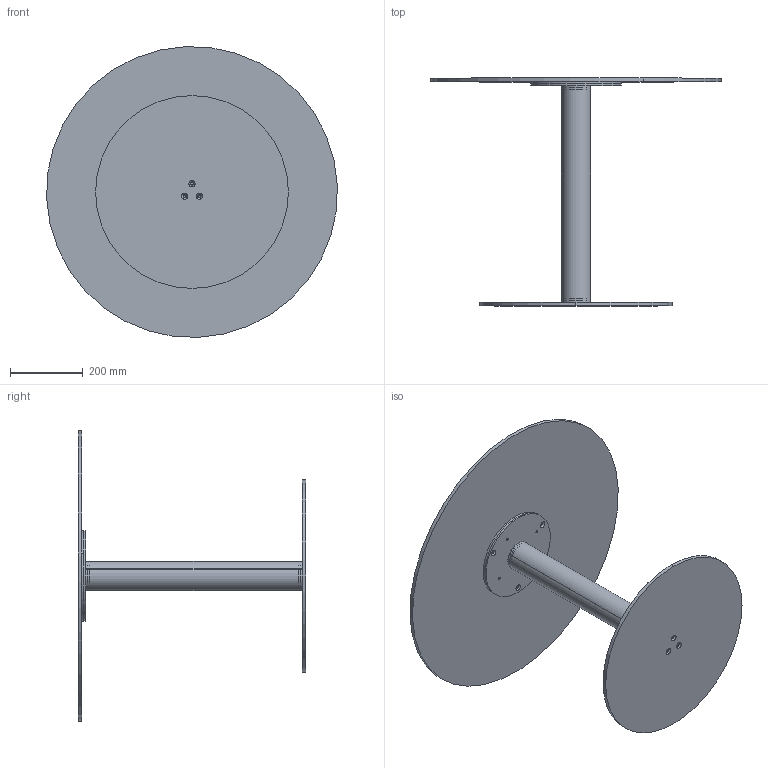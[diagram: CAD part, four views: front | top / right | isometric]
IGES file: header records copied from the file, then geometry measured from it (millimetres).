
Start section: SolidWorks IGES file using analytic representation for surfaces
Global section: file name: Y:\eforma\TECNICO\SOLIDWORKS\E-FORMA\5-TAVOLINI BISTRO\CILINDRO BISTRÒ H63\02 parts\CB25G.IGS; native system: SolidWorks 2022; preprocessor: SolidWorks 2022; author: eforma.tech; date: 240808.104016; units: millimetre
Bounding box: 799.2 x 626 x 799.2 mm (x, y, z)
Volume: 8099260.2 mm3; surface area: 2006964.6 mm2
Topology: 7 solids, 7 shells, 104 faces, 244 edges, 154 vertices
Faces by surface type: revolution 90, plane 14
